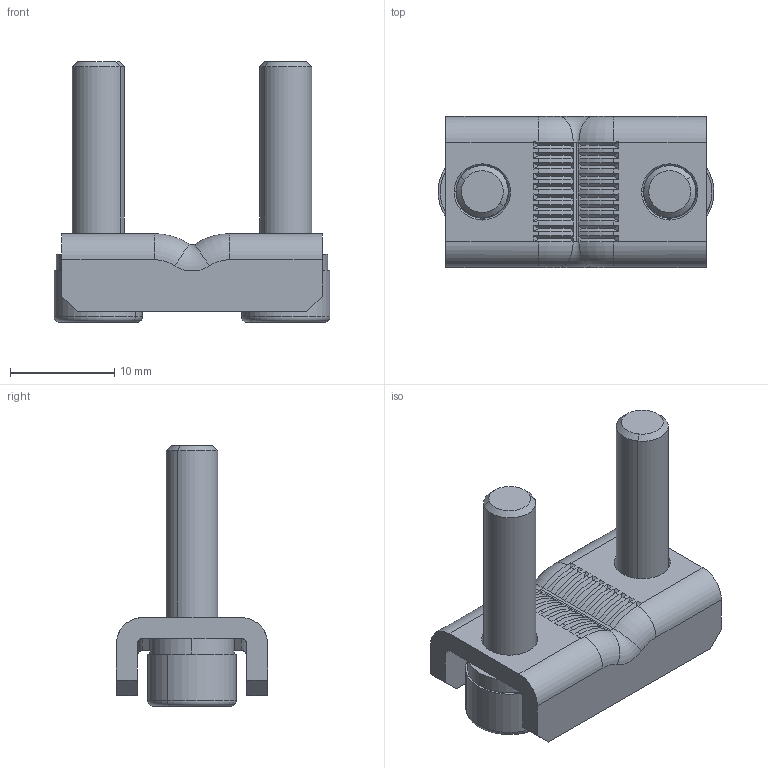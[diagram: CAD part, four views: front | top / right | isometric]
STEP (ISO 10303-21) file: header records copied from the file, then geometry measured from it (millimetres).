
FILE_DESCRIPTION (( 'STEP AP214' ), '1' );
FILE_NAME ('PRIPOJOVACI_SADA_S_992436_-_1.STEP', '2021-08-25T05:34:26', ( '' ), ( '' ), 'SwSTEP 2.0', 'SolidWorks 2015', '' );
FILE_SCHEMA (( 'AUTOMOTIVE_DESIGN' ));
Length unit declared in the file: millimetre
Products named in the file (4): Sroub_ISO_4762_M5x20_P040796042_-_0; PRIPOJOVACI_SADA_S_992436_-_1; SVORKA_00_570141_-_1; Podlozka_CSN_021740_5_3112140109_-_0
Assembly tree (5 placements, depth 2):
  PRIPOJOVACI_SADA_S_992436_-_1
    SVORKA_00_570141_-_1
    Podlozka_CSN_021740_5_3112140109_-_0  x2
    Sroub_ISO_4762_M5x20_P040796042_-_0  x2
Bounding box: 26.48 x 14.5 x 25 mm (x, y, z)
Volume: 2471.3 mm3; surface area: 2832.5 mm2
Topology: 5 solids, 5 shells, 372 faces, 940 edges, 596 vertices
Faces by surface type: plane 168, bspline 62, cylinder 57, cone 56, torus 29
Entity records: 13613 total; most frequent: CARTESIAN_POINT 5910, ORIENTED_EDGE 1708, DIRECTION 1335, EDGE_CURVE 854, VERTEX_POINT 546, VECTOR 473, LINE 473, AXIS2_PLACEMENT_3D 431
